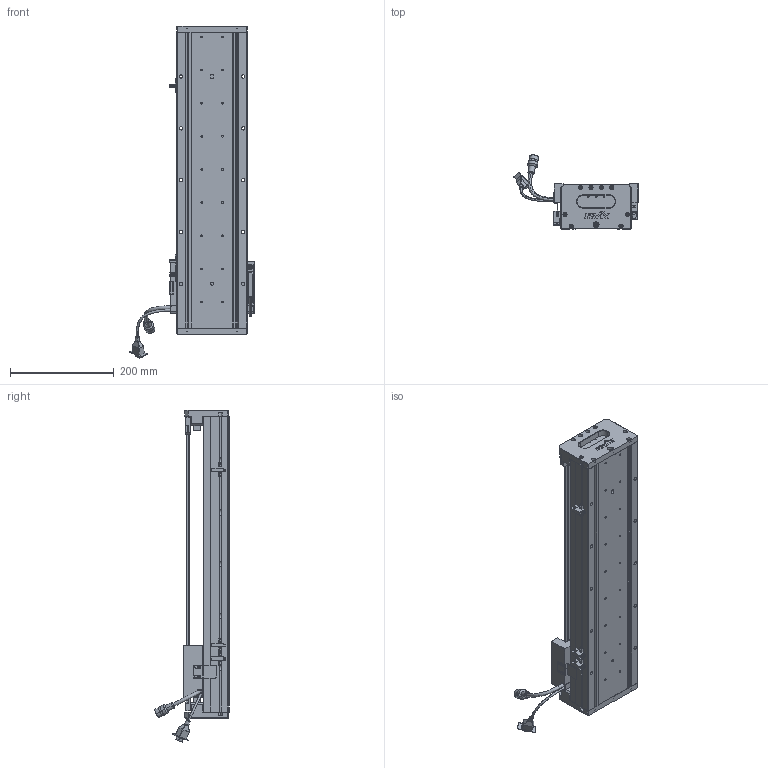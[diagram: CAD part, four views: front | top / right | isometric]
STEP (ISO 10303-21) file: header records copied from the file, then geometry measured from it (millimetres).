
FILE_DESCRIPTION (( 'STEP AP203' ), '1' );
FILE_NAME ('Z1-RY140D-1-L500-B-K.SLDASM_0400.step', '2021-05-17T07:30:31', ( '盈信电脑' ), ( '东莞市道滘镇水果街19号' ), 'SwSTEP 2.0', 'SolidWorks 2016', '' );
FILE_SCHEMA (( 'CONFIG_CONTROL_DESIGN' ));
Length unit declared in the file: millimetre
Products named in the file (36): Z-RY140感应器672光电感应片; 榋妏寠巭燃_暯_M2_2; 140蚥薯蝶輸; SEAL; Z1-RY140-L500直线电机模组底座_0400; Z1-RY140-L500詩湍100mm遵_0400; HOLDER0; HARNESS-Part-2; Z1-RY140D-1-L500-B-K.SLDASM_0400; SCREW-M1.6-2; SCALE-Part-2; SCREW-M1.7-1; Z-RY140詩湍奻揤裔; PBU_SHEET; HARNESS-Part-1; LABEL-Part-1; SEAL-Part-1; COVER-Part-1; 140-Z-臏賑輸盄裔(21遴); SCREW-M1.6-1; COVER; SCALE-Part-1; 140雄赽晤鎢ん堤盄; SCALE; SCREW-M1.6; SCREW-M1.7; Z-140詩湍傷裔啣; Z-RY140詩湍狟揤裔; LABEL; Z1-RY140圉猾敕臏賑輸(21遴); SHIELDPLATE; 覜茼ん672; HARNESS; SCREW-M1.6-3; 080黍杅芛假蚾釱21遴; PSLH080_PSLF2
Assembly tree (41 placements, depth 4):
  Z1-RY140D-1-L500-B-K.SLDASM_0400
    Z1-RY140-L500直线电机模组底座_0400
    Z-RY140感应器672光电感应片
    Z1-RY140圉猾敕臏賑輸(21遴)
    覜茼ん672  x3
    Z1-RY140-L500詩湍100mm遵_0400
    PSLH080_PSLF2
      SCALE
        SCALE-Part-1
        SCALE-Part-2
      HARNESS
        HARNESS-Part-1
        HARNESS-Part-2
      LABEL
        LABEL-Part-1
      COVER
        COVER-Part-1
      SEAL
        SEAL-Part-1
      榋妏寠巭燃_暯_M2_2
      SHIELDPLATE
      SCREW-M1.7
      SCREW-M1.7-1
      PBU_SHEET
      SCREW-M1.6
      SCREW-M1.6-1
      SCREW-M1.6-2
      SCREW-M1.6-3
      HOLDER0
    080黍杅芛假蚾釱21遴
    140-Z-臏賑輸盄裔(21遴)
    Z-140詩湍傷裔啣  x2
    Z-RY140詩湍狟揤裔  x2
    Z-RY140詩湍奻揤裔  x2
    140蚥薯蝶輸  x2
    140雄赽晤鎢ん堤盄
Bounding box: 239.84 x 143.88 x 640.88 mm (x, y, z)
Volume: 2417489.4 mm3; surface area: 651995 mm2
Topology: 36 solids, 36 shells, 2522 faces, 6556 edges, 4155 vertices
Faces by surface type: cylinder 1098, plane 1064, cone 238, torus 69, bspline 53
Entity records: 70856 total; most frequent: CARTESIAN_POINT 16881, DIRECTION 10520, ORIENTED_EDGE 10328, EDGE_CURVE 5164, AXIS2_PLACEMENT_3D 3826, VERTEX_POINT 3323, LINE 2868, VECTOR 2868
